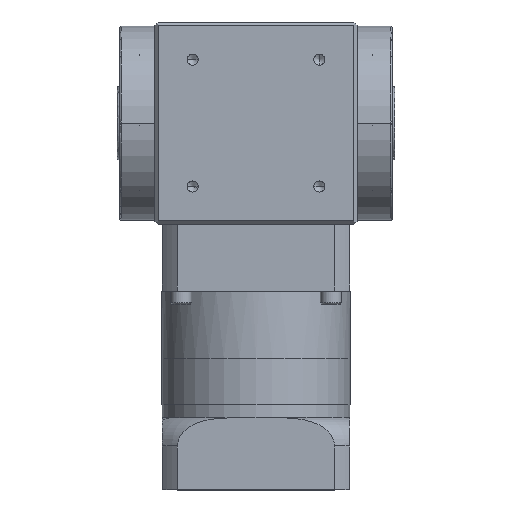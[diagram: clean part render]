
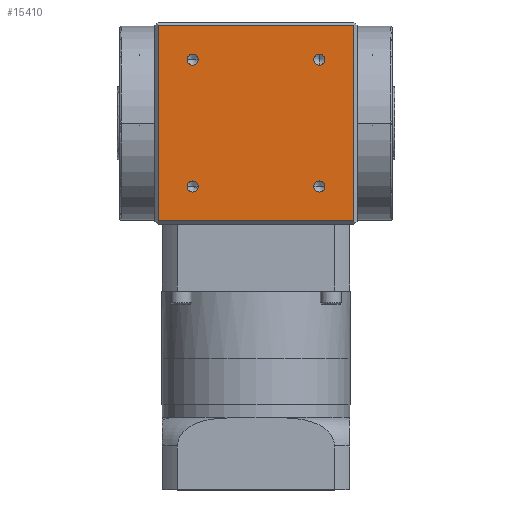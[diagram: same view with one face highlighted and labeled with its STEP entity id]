
A CAD part, top view. The second image highlights one B-rep face of the part: STEP entity #15410.
In plain terms, the highlighted planar face has unit normal (0, 0, 1).
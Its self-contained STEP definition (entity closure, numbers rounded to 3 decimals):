
#74 = AXIS2_PLACEMENT_3D ( 'NONE', #12165, #27076, #14275 ) ;
#466 = DIRECTION ( 'NONE',  ( 0., 0., 1. ) ) ;
#531 = ORIENTED_EDGE ( 'NONE', *, *, #4766, .F. ) ;
#816 = CARTESIAN_POINT ( 'NONE',  ( -75., 256.3, 62. ) ) ;
#982 = PLANE ( 'NONE',  #74 ) ;
#1006 = LINE ( 'NONE', #2021, #8183 ) ;
#1175 = CARTESIAN_POINT ( 'NONE',  ( 38.891, 235.191, 62. ) ) ;
#1929 = ORIENTED_EDGE ( 'NONE', *, *, #8678, .F. ) ;
#2021 = CARTESIAN_POINT ( 'NONE',  ( 59.887, 0., 62. ) ) ;
#3387 = DIRECTION ( 'NONE',  ( 0., 0., 1. ) ) ;
#3416 = DIRECTION ( 'NONE',  ( 0., -1., 0. ) ) ;
#3486 = DIRECTION ( 'NONE',  ( 0., 0., 1. ) ) ;
#3818 = VERTEX_POINT ( 'NONE', #27219 ) ;
#4349 = EDGE_CURVE ( 'NONE', #4559, #15356, #8228, .T. ) ;
#4395 = EDGE_CURVE ( 'NONE', #7142, #23365, #8059, .T. ) ;
#4407 = EDGE_LOOP ( 'NONE', ( #23709, #9878 ) ) ;
#4531 = CARTESIAN_POINT ( 'NONE',  ( 38.891, 154.009, 62. ) ) ;
#4557 = EDGE_CURVE ( 'NONE', #4576, #6771, #6575, .T. ) ;
#4559 = VERTEX_POINT ( 'NONE', #18538 ) ;
#4576 = VERTEX_POINT ( 'NONE', #8019 ) ;
#4766 = EDGE_CURVE ( 'NONE', #21569, #23211, #5462, .T. ) ;
#4806 = AXIS2_PLACEMENT_3D ( 'NONE', #10767, #25673, #12899 ) ;
#5189 = EDGE_LOOP ( 'NONE', ( #5512, #13673 ) ) ;
#5462 = CIRCLE ( 'NONE', #9742, 3.4 ) ;
#5470 = FACE_BOUND ( 'NONE', #16181, .T. ) ;
#5512 = ORIENTED_EDGE ( 'NONE', *, *, #4557, .F. ) ;
#6575 = CIRCLE ( 'NONE', #17389, 3.4 ) ;
#6593 = CARTESIAN_POINT ( 'NONE',  ( -38.891, 235.191, 62. ) ) ;
#6754 = CARTESIAN_POINT ( 'NONE',  ( -38.891, 231.791, 62. ) ) ;
#6771 = VERTEX_POINT ( 'NONE', #7917 ) ;
#7012 = ORIENTED_EDGE ( 'NONE', *, *, #7947, .F. ) ;
#7120 = CARTESIAN_POINT ( 'NONE',  ( -59.887, 136.3, 62. ) ) ;
#7142 = VERTEX_POINT ( 'NONE', #4531 ) ;
#7623 = CIRCLE ( 'NONE', #19178, 3.4 ) ;
#7694 = VECTOR ( 'NONE', #12476, 1000. ) ;
#7835 = LINE ( 'NONE', #816, #11363 ) ;
#7917 = CARTESIAN_POINT ( 'NONE',  ( 38.891, 238.591, 62. ) ) ;
#7947 = EDGE_CURVE ( 'NONE', #15356, #4559, #15298, .T. ) ;
#7972 = DIRECTION ( 'NONE',  ( -1., 0., 0. ) ) ;
#8019 = CARTESIAN_POINT ( 'NONE',  ( 38.891, 231.791, 62. ) ) ;
#8059 = CIRCLE ( 'NONE', #22110, 3.4 ) ;
#8183 = VECTOR ( 'NONE', #19392, 1000. ) ;
#8228 = CIRCLE ( 'NONE', #19278, 3.4 ) ;
#8678 = EDGE_CURVE ( 'NONE', #3818, #25460, #11773, .T. ) ;
#8786 = DIRECTION ( 'NONE',  ( 0., -1., 0. ) ) ;
#9152 = VERTEX_POINT ( 'NONE', #14312 ) ;
#9198 = DIRECTION ( 'NONE',  ( 0., 0., 1. ) ) ;
#9252 = CARTESIAN_POINT ( 'NONE',  ( -38.891, 157.409, 62. ) ) ;
#9381 = LINE ( 'NONE', #12561, #7694 ) ;
#9742 = AXIS2_PLACEMENT_3D ( 'NONE', #6593, #21527, #8786 ) ;
#9878 = ORIENTED_EDGE ( 'NONE', *, *, #23697, .F. ) ;
#10767 = CARTESIAN_POINT ( 'NONE',  ( 38.891, 157.409, 62. ) ) ;
#10794 = EDGE_CURVE ( 'NONE', #9152, #3818, #1006, .T. ) ;
#10962 = EDGE_CURVE ( 'NONE', #15570, #9152, #7835, .T. ) ;
#11157 = EDGE_CURVE ( 'NONE', #25460, #15570, #9381, .T. ) ;
#11267 = FACE_BOUND ( 'NONE', #5189, .T. ) ;
#11363 = VECTOR ( 'NONE', #16076, 1000. ) ;
#11402 = DIRECTION ( 'NONE',  ( 0., -1., 0. ) ) ;
#11746 = VECTOR ( 'NONE', #7972, 1000. ) ;
#11773 = LINE ( 'NONE', #16426, #11746 ) ;
#12090 = ORIENTED_EDGE ( 'NONE', *, *, #27447, .F. ) ;
#12165 = CARTESIAN_POINT ( 'NONE',  ( -75., 258.3, 62. ) ) ;
#12476 = DIRECTION ( 'NONE',  ( 0., 1., 0. ) ) ;
#12561 = CARTESIAN_POINT ( 'NONE',  ( -59.887, 0., 62. ) ) ;
#12899 = DIRECTION ( 'NONE',  ( 0., -1., 0. ) ) ;
#13154 = EDGE_CURVE ( 'NONE', #6771, #4576, #7623, .T. ) ;
#13598 = CARTESIAN_POINT ( 'NONE',  ( 38.891, 157.409, 62. ) ) ;
#13673 = ORIENTED_EDGE ( 'NONE', *, *, #13154, .F. ) ;
#14275 = DIRECTION ( 'NONE',  ( 0., 1., 0. ) ) ;
#14312 = CARTESIAN_POINT ( 'NONE',  ( 59.887, 256.3, 62. ) ) ;
#14653 = CIRCLE ( 'NONE', #20738, 3.4 ) ;
#14769 = EDGE_LOOP ( 'NONE', ( #531, #12090 ) ) ;
#15298 = CIRCLE ( 'NONE', #26594, 3.4 ) ;
#15356 = VERTEX_POINT ( 'NONE', #24662 ) ;
#15410 = ADVANCED_FACE ( 'NONE', ( #16915, #11267, #23260, #5470, #27618 ), #982, .F. ) ;
#15570 = VERTEX_POINT ( 'NONE', #19039 ) ;
#15598 = EDGE_LOOP ( 'NONE', ( #20037, #21286, #16623, #1929 ) ) ;
#15744 = DIRECTION ( 'NONE',  ( 0., -1., 0. ) ) ;
#16076 = DIRECTION ( 'NONE',  ( 1., 0., 0. ) ) ;
#16181 = EDGE_LOOP ( 'NONE', ( #25796, #7012 ) ) ;
#16370 = CARTESIAN_POINT ( 'NONE',  ( -38.891, 157.409, 62. ) ) ;
#16403 = DIRECTION ( 'NONE',  ( 0., 0., 1. ) ) ;
#16426 = CARTESIAN_POINT ( 'NONE',  ( -75., 136.3, 62. ) ) ;
#16469 = CARTESIAN_POINT ( 'NONE',  ( 38.891, 235.191, 62. ) ) ;
#16623 = ORIENTED_EDGE ( 'NONE', *, *, #11157, .F. ) ;
#16915 = FACE_BOUND ( 'NONE', #14769, .T. ) ;
#17389 = AXIS2_PLACEMENT_3D ( 'NONE', #16469, #3486, #18630 ) ;
#17550 = CARTESIAN_POINT ( 'NONE',  ( -38.891, 238.591, 62. ) ) ;
#18528 = DIRECTION ( 'NONE',  ( 0., -1., 0. ) ) ;
#18538 = CARTESIAN_POINT ( 'NONE',  ( -38.891, 154.009, 62. ) ) ;
#18630 = DIRECTION ( 'NONE',  ( 0., -1., 0. ) ) ;
#19039 = CARTESIAN_POINT ( 'NONE',  ( -59.887, 256.3, 62. ) ) ;
#19178 = AXIS2_PLACEMENT_3D ( 'NONE', #1175, #16403, #3416 ) ;
#19278 = AXIS2_PLACEMENT_3D ( 'NONE', #9252, #24177, #11402 ) ;
#19392 = DIRECTION ( 'NONE',  ( 0., -1., 0. ) ) ;
#20037 = ORIENTED_EDGE ( 'NONE', *, *, #10794, .F. ) ;
#20738 = AXIS2_PLACEMENT_3D ( 'NONE', #21942, #9198, #24130 ) ;
#21286 = ORIENTED_EDGE ( 'NONE', *, *, #10962, .F. ) ;
#21527 = DIRECTION ( 'NONE',  ( 0., 0., 1. ) ) ;
#21569 = VERTEX_POINT ( 'NONE', #6754 ) ;
#21942 = CARTESIAN_POINT ( 'NONE',  ( -38.891, 235.191, 62. ) ) ;
#22110 = AXIS2_PLACEMENT_3D ( 'NONE', #13598, #466, #15744 ) ;
#22902 = CIRCLE ( 'NONE', #4806, 3.4 ) ;
#23211 = VERTEX_POINT ( 'NONE', #17550 ) ;
#23260 = FACE_BOUND ( 'NONE', #4407, .T. ) ;
#23365 = VERTEX_POINT ( 'NONE', #26609 ) ;
#23697 = EDGE_CURVE ( 'NONE', #23365, #7142, #22902, .T. ) ;
#23709 = ORIENTED_EDGE ( 'NONE', *, *, #4395, .F. ) ;
#24130 = DIRECTION ( 'NONE',  ( 0., -1., 0. ) ) ;
#24177 = DIRECTION ( 'NONE',  ( 0., 0., 1. ) ) ;
#24662 = CARTESIAN_POINT ( 'NONE',  ( -38.891, 160.809, 62. ) ) ;
#25460 = VERTEX_POINT ( 'NONE', #7120 ) ;
#25673 = DIRECTION ( 'NONE',  ( 0., 0., 1. ) ) ;
#25796 = ORIENTED_EDGE ( 'NONE', *, *, #4349, .F. ) ;
#26594 = AXIS2_PLACEMENT_3D ( 'NONE', #16370, #3387, #18528 ) ;
#26609 = CARTESIAN_POINT ( 'NONE',  ( 38.891, 160.809, 62. ) ) ;
#27076 = DIRECTION ( 'NONE',  ( 0., 0., -1. ) ) ;
#27219 = CARTESIAN_POINT ( 'NONE',  ( 59.887, 136.3, 62. ) ) ;
#27447 = EDGE_CURVE ( 'NONE', #23211, #21569, #14653, .T. ) ;
#27618 = FACE_OUTER_BOUND ( 'NONE', #15598, .T. ) ;
